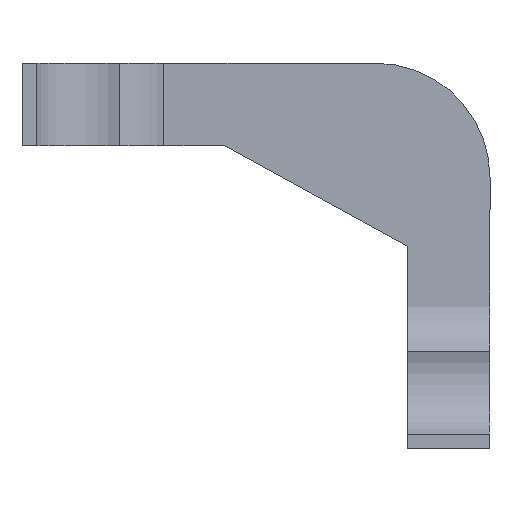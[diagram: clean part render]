
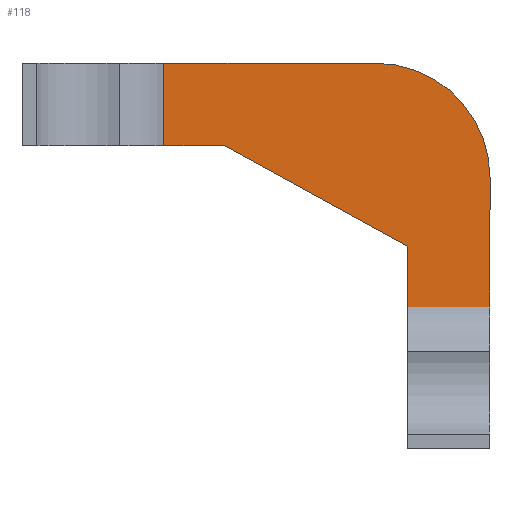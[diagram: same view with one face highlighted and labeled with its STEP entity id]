
A CAD part, front view. The second image highlights one B-rep face of the part: STEP entity #118.
In plain terms, the highlighted planar face has unit normal (0, -1, 0).
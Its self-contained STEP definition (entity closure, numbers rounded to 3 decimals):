
#6 = VERTEX_POINT ( 'NONE', #67 ) ;
#31 = CARTESIAN_POINT ( 'NONE',  ( 0., -8.5, 0. ) ) ;
#34 = DIRECTION ( 'NONE',  ( 0., 0., 1. ) ) ;
#63 = ORIENTED_EDGE ( 'NONE', *, *, #449, .F. ) ;
#64 = VECTOR ( 'NONE', #450, 1000. ) ;
#66 = DIRECTION ( 'NONE',  ( 1., 0., 0. ) ) ;
#67 = CARTESIAN_POINT ( 'NONE',  ( 14.722, -8.5, 50. ) ) ;
#77 = DIRECTION ( 'NONE',  ( 0., 0., -1. ) ) ;
#80 = LINE ( 'NONE', #752, #64 ) ;
#81 = EDGE_CURVE ( 'NONE', #615, #87, #452, .T. ) ;
#85 = CARTESIAN_POINT ( 'NONE',  ( 61., -8.5, 43. ) ) ;
#86 = EDGE_CURVE ( 'NONE', #524, #447, #277, .T. ) ;
#87 = VERTEX_POINT ( 'NONE', #392 ) ;
#88 = FACE_OUTER_BOUND ( 'NONE', #276, .T. ) ;
#97 = LINE ( 'NONE', #655, #482 ) ;
#100 = DIRECTION ( 'NONE',  ( 0., 0., 1. ) ) ;
#103 = ORIENTED_EDGE ( 'NONE', *, *, #86, .T. ) ;
#118 = ADVANCED_FACE ( 'NONE', ( #88 ), #506, .T. ) ;
#124 = LINE ( 'NONE', #182, #661 ) ;
#179 = ORIENTED_EDGE ( 'NONE', *, *, #442, .T. ) ;
#182 = CARTESIAN_POINT ( 'NONE',  ( 86., -8.5, 14.722 ) ) ;
#195 = ORIENTED_EDGE ( 'NONE', *, *, #500, .F. ) ;
#199 = CARTESIAN_POINT ( 'NONE',  ( 14.722, -8.5, 68. ) ) ;
#203 = EDGE_CURVE ( 'NONE', #6, #566, #325, .T. ) ;
#205 = DIRECTION ( 'NONE',  ( 0., -1., 0. ) ) ;
#213 = ORIENTED_EDGE ( 'NONE', *, *, #81, .F. ) ;
#235 = VERTEX_POINT ( 'NONE', #531 ) ;
#252 = DIRECTION ( 'NONE',  ( 0., -1., 0. ) ) ;
#276 = EDGE_LOOP ( 'NONE', ( #634, #103, #195, #720, #63, #213, #681, #179 ) ) ;
#277 = CIRCLE ( 'NONE', #727, 25. ) ;
#308 = EDGE_CURVE ( 'NONE', #235, #615, #97, .T. ) ;
#321 = VECTOR ( 'NONE', #407, 1000. ) ;
#325 = LINE ( 'NONE', #199, #357 ) ;
#357 = VECTOR ( 'NONE', #34, 1000. ) ;
#358 = VECTOR ( 'NONE', #620, 1000. ) ;
#392 = CARTESIAN_POINT ( 'NONE',  ( 28., -8.5, 50. ) ) ;
#396 = CARTESIAN_POINT ( 'NONE',  ( 28., -8.5, 50. ) ) ;
#407 = DIRECTION ( 'NONE',  ( 0., 0., -1. ) ) ;
#409 = VERTEX_POINT ( 'NONE', #679 ) ;
#410 = CARTESIAN_POINT ( 'NONE',  ( 68., -8.5, 28. ) ) ;
#436 = LINE ( 'NONE', #440, #358 ) ;
#440 = CARTESIAN_POINT ( 'NONE',  ( 0., -8.5, 50. ) ) ;
#442 = EDGE_CURVE ( 'NONE', #235, #409, #124, .T. ) ;
#447 = VERTEX_POINT ( 'NONE', #558 ) ;
#449 = EDGE_CURVE ( 'NONE', #87, #6, #436, .T. ) ;
#450 = DIRECTION ( 'NONE',  ( 1., 0., 0. ) ) ;
#452 = LINE ( 'NONE', #396, #692 ) ;
#471 = CARTESIAN_POINT ( 'NONE',  ( 14.722, -8.5, 68. ) ) ;
#482 = VECTOR ( 'NONE', #100, 1000. ) ;
#500 = EDGE_CURVE ( 'NONE', #566, #447, #80, .T. ) ;
#506 = PLANE ( 'NONE',  #660 ) ;
#524 = VERTEX_POINT ( 'NONE', #565 ) ;
#530 = LINE ( 'NONE', #644, #321 ) ;
#531 = CARTESIAN_POINT ( 'NONE',  ( 68., -8.5, 14.722 ) ) ;
#558 = CARTESIAN_POINT ( 'NONE',  ( 61., -8.5, 68. ) ) ;
#564 = EDGE_CURVE ( 'NONE', #524, #409, #530, .T. ) ;
#565 = CARTESIAN_POINT ( 'NONE',  ( 86., -8.5, 43. ) ) ;
#566 = VERTEX_POINT ( 'NONE', #471 ) ;
#615 = VERTEX_POINT ( 'NONE', #410 ) ;
#620 = DIRECTION ( 'NONE',  ( -1., 0., 0. ) ) ;
#629 = DIRECTION ( 'NONE',  ( -0.876, 0., 0.482 ) ) ;
#634 = ORIENTED_EDGE ( 'NONE', *, *, #564, .F. ) ;
#644 = CARTESIAN_POINT ( 'NONE',  ( 86., -8.5, 0. ) ) ;
#655 = CARTESIAN_POINT ( 'NONE',  ( 68., -8.5, 28. ) ) ;
#660 = AXIS2_PLACEMENT_3D ( 'NONE', #31, #205, #739 ) ;
#661 = VECTOR ( 'NONE', #66, 1000. ) ;
#679 = CARTESIAN_POINT ( 'NONE',  ( 86., -8.5, 14.722 ) ) ;
#681 = ORIENTED_EDGE ( 'NONE', *, *, #308, .F. ) ;
#692 = VECTOR ( 'NONE', #629, 1000. ) ;
#720 = ORIENTED_EDGE ( 'NONE', *, *, #203, .F. ) ;
#727 = AXIS2_PLACEMENT_3D ( 'NONE', #85, #252, #77 ) ;
#739 = DIRECTION ( 'NONE',  ( 0., 0., -1. ) ) ;
#752 = CARTESIAN_POINT ( 'NONE',  ( 86., -8.5, 68. ) ) ;
